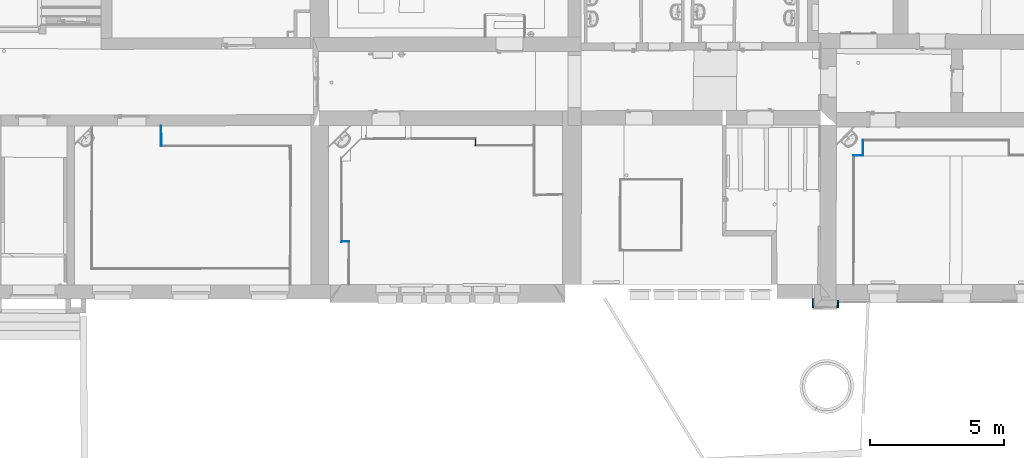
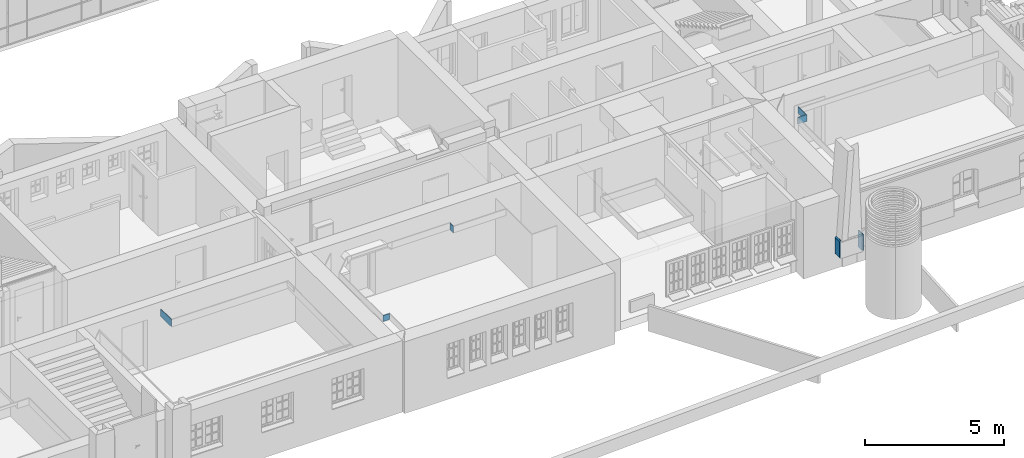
# One storey, part 60 of 196: 7 walls.
"""IFC2X3 building model written with IfcOpenShell, lengths in metres."""

from ifc_helpers import new_model, entity, si_unit, converted_unit, derived_unit, money_unit, point, direction, frame, frame_2d, origin_with_axes, place, context, subcontext, project, spatial, polyline, circle_curve, parameter, trimmed, segment, composite_curve, outline, extrude, material, layer, layer_set, layer_usage, type_object, element, save


model = new_model("IFC2X3")

# Units and contexts
model_context = context("Model", 3, precision=1e-05, world=origin_with_axes(), true_north=direction((0.0, 1.0)))
body_context = subcontext(model_context, "Body", "Model", "MODEL_VIEW")
ifc_project = project(units=[si_unit("LENGTHUNIT", "METRE"), si_unit("AREAUNIT", "SQUARE_METRE"), si_unit("VOLUMEUNIT", "CUBIC_METRE"), converted_unit("PLANEANGLEUNIT", "DEGREE", entity("IfcPlaneAngleMeasure", 0.0174532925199), si_unit("PLANEANGLEUNIT", "RADIAN"), dimensions=[0, 0, 0, 0, 0, 0, 0]), money_unit("EUR"), converted_unit("TIMEUNIT", "Year", entity("IfcTimeMeasure", 31556926.0), si_unit("TIMEUNIT", "SECOND"), dimensions=[0, 0, 1, 0, 0, 0, 0]), si_unit("MASSUNIT", "GRAM", prefix="KILO"), si_unit("THERMODYNAMICTEMPERATUREUNIT", "DEGREE_CELSIUS"), si_unit("LUMINOUSINTENSITYUNIT", "LUMEN"), si_unit("ENERGYUNIT", "JOULE", prefix="MEGA"), derived_unit("THERMALCONDUCTANCEUNIT", [(si_unit("POWERUNIT", "WATT"), 1), (si_unit("LENGTHUNIT", "METRE"), -1), (si_unit("THERMODYNAMICTEMPERATUREUNIT", "KELVIN"), -1)]), derived_unit("SPECIFICHEATCAPACITYUNIT", [(si_unit("ENERGYUNIT", "JOULE"), 1), (si_unit("MASSUNIT", "GRAM", prefix="KILO"), -1), (si_unit("THERMODYNAMICTEMPERATUREUNIT", "KELVIN"), -1)]), derived_unit("MASSDENSITYUNIT", [(si_unit("MASSUNIT", "GRAM", prefix="KILO"), 1), (si_unit("VOLUMEUNIT", "CUBIC_METRE"), -1)])], contexts=[model_context])

# Site, building, storey
site_placement = place(None, origin_with_axes())
site = spatial("IfcSite", under=ifc_project, at=site_placement, Name="Gelände", CompositionType="ELEMENT")
building_placement = place(site_placement, origin_with_axes())
building = spatial("IfcBuilding", under=site, at=building_placement, Name="Gebäude", CompositionType="ELEMENT")
storey_placement = place(building_placement, frame((0.0, 0.0, -3.0), z_axis=(0.0, 0.0, 1.0), x_axis=(1.0, 0.0, 0.0)))
storey = spatial("IfcBuildingStorey", under=building, at=storey_placement, Name="KELLERGESCHOSS", CompositionType="ELEMENT", Elevation=-3.0)

# Walls
ifc_material_1 = material(Name="43_Gipskarton")
ifc_layer = layer(ifc_material_1, 0.03, ventilated="UNKNOWN")
ifc_layer_set = layer_set([ifc_layer], Name="43_Gipskarton 0.03")
ifc_layer_usage_1 = layer_usage(ifc_layer_set, "AXIS2", "NEGATIVE", 0.0)
wall_type_1 = type_object("IfcWallType", Name="43_Gipskarton 30", PredefinedType="ELEMENTEDWALL")
wall_1_placement = place(storey_placement, frame((-2.63982226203, 15.6265424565, 2.14), z_axis=(0.0, 0.0, 1.0), x_axis=(-0.0184373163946, 0.999830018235, 0.0)))
element("IfcWallStandardCase", 1, at=wall_1_placement, inside=storey, type_object=wall_type_1, material=ifc_layer_usage_1, Name="Wand-064", ObjectType="ELEMENTEDWALL", context=body_context, shape_type="SweptSolid", body=[
    extrude(outline(polyline([(0.0294473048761, -0.03), (0.768220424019, -0.03), (0.768220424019, 0.0), (0.0, 0.0), (0.0294473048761, -0.03)])), origin_with_axes(), (0.0, 0.0, 1.0), 0.32),
])
ifc_layer_usage_2 = layer_usage(ifc_layer_set, "AXIS2", "NEGATIVE", 0.0)
wall_2_placement = place(storey_placement, frame((9.0799747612, 15.6428179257, 2.15545783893), z_axis=(0.0, 0.0, 1.0), x_axis=(0.00303276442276, 0.999995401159, 0.0)))
element("IfcWallStandardCase", 2, at=wall_2_placement, inside=storey, type_object=wall_type_1, material=ifc_layer_usage_2, Name="Wand-066", ObjectType="ELEMENTEDWALL", context=body_context, shape_type="SweptSolid", body=[
    extrude(outline(polyline([(0.0301748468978, -0.03), (0.284438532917, -0.03), (0.254300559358, 0.0), (0.0, 0.0), (0.0301748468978, -0.03)])), origin_with_axes(), (0.0, 0.0, 1.0), 0.284542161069),
])
ifc_layer_usage_3 = layer_usage(ifc_layer_set, "AXIS2", "NEGATIVE", 0.0)
wall_3_placement = place(storey_placement, frame((4.11655630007, 12.0902155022, 2.18), z_axis=(0.0, 0.0, 1.0), x_axis=(0.999993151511, 0.00370093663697, 0.0)))
element("IfcWallStandardCase", 3, at=wall_3_placement, inside=storey, type_object=wall_type_1, material=ifc_layer_usage_3, Name="Wand-070", ObjectType="ELEMENTEDWALL", context=body_context, shape_type="SweptSolid", body=[
    extrude(outline(polyline([(-0.0300592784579, -0.03), (0.240866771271, -0.03), (0.271024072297, 0.0), (0.0, 0.0), (-0.0300592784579, -0.03)])), origin_with_axes(), (0.0, 0.0, 1.0), 0.26),
])
ifc_layer_usage_4 = layer_usage(ifc_layer_set, "AXIS2", "NEGATIVE", 0.0)
wall_4_placement = place(storey_placement, frame((23.5657238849, 15.2753556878, 2.22), z_axis=(0.0, 0.0, 1.0), x_axis=(-0.999999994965, -0.000100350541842, 0.0)))
element("IfcWallStandardCase", 4, at=wall_4_placement, inside=storey, type_object=wall_type_1, material=ifc_layer_usage_4, Name="Wand-072", ObjectType="ELEMENTEDWALL", context=body_context, shape_type="SweptSolid", body=[
    extrude(outline(polyline([(0.0301801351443, -0.03), (0.371909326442, -0.03), (0.341985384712, 0.0), (0.0, 0.0), (0.0301801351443, -0.03)])), origin_with_axes(), (0.0, 0.0, 1.0), 0.29),
])
ifc_layer_usage_5 = layer_usage(ifc_layer_set, "AXIS2", "NEGATIVE", 0.0)
wall_5_placement = place(storey_placement, frame((23.5622473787, 15.8464975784, 2.22), z_axis=(0.0, 0.0, 1.0), x_axis=(0.00608682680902, -0.999981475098, 0.0)))
element("IfcWallStandardCase", 5, at=wall_5_placement, inside=storey, type_object=wall_type_1, material=ifc_layer_usage_5, Name="Wand-074", ObjectType="ELEMENTEDWALL", context=body_context, shape_type="SweptSolid", body=[
    extrude(outline(polyline([(-0.0301890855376, -0.03), (0.540972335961, -0.03), (0.571152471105, 0.0), (0.0, 0.0), (-0.0301890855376, -0.03)])), origin_with_axes(), (0.0, 0.0, 1.0), 0.29),
])
ifc_material_2 = material(Name="01_ALLGEMEIN - BAUTEIL")
wall_type_2 = type_object("IfcWallType", Name="Sockel 1 59 x 750", PredefinedType="ELEMENTEDWALL")
wall_6_placement = place(storey_placement, frame((22.5819716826, 9.88909161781, 1.05914340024), z_axis=(0.0, 0.0, 1.0), x_axis=(-0.0118197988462, -0.999930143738, 0.0)))
element("IfcWall", 6, at=wall_6_placement, inside=storey, type_object=wall_type_2, material=ifc_material_2, Name="Wand-079", ObjectType="ELEMENTEDWALL", context=body_context, shape_type="SweptSolid", body=[
    extrude(outline(composite_curve([segment(polyline([(0.0582254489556, -0.75), (0.0575648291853, -0.072488)]), True, "CONTINUOUS"), segment(trimmed(circle_curve(frame_2d((0.00752199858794, -0.0589368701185), x_axis=(0.965236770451, -0.261377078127)), 0.0518451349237), [point((0.0575648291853, -0.072488)), parameter(0.0)], [point((0.0162927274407, -0.007839)), parameter(95.4121261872)], True, "CARTESIAN"), True, "CONTINUOUS"), segment(polyline([(0.0162927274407, -0.007839), (0.00232171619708, 0.0), (0.0, 0.0), (0.0, -0.75), (0.0582254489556, -0.75)]), True, "CONTINUOUS")], self_intersect=False)), frame((0.0, 0.0, 0.0), z_axis=(1.0, 0.0, 0.0), x_axis=(0.0, 1.0, 0.0)), (0.0, 0.0, 1.0), 0.283135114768),
])
wall_7_placement = place(storey_placement, frame((21.7153311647, 9.61648051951, 1.05914340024), z_axis=(0.0, 0.0, 1.0), x_axis=(-0.0145871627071, 0.999893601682, 0.0)))
element("IfcWall", 7, at=wall_7_placement, inside=storey, type_object=wall_type_2, material=ifc_material_2, Name="Wand-081", ObjectType="ELEMENTEDWALL", context=body_context, shape_type="SweptSolid", body=[
    extrude(outline(composite_curve([segment(polyline([(0.0582254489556, -0.75), (0.0575648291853, -0.072488)]), True, "CONTINUOUS"), segment(trimmed(circle_curve(frame_2d((0.00752199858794, -0.0589368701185), x_axis=(0.965236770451, -0.261377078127)), 0.0518451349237), [point((0.0575648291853, -0.072488)), parameter(0.0)], [point((0.0162927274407, -0.007839)), parameter(95.4121261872)], True, "CARTESIAN"), True, "CONTINUOUS"), segment(polyline([(0.0162927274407, -0.007839), (0.00232171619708, 0.0), (0.0, 0.0), (0.0, -0.75), (0.0582254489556, -0.75)]), True, "CONTINUOUS")], self_intersect=False)), frame((0.0, 0.0, 0.0), z_axis=(1.0, 0.0, 0.0), x_axis=(0.0, 1.0, 0.0)), (0.0, 0.0, 1.0), 0.327813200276),
])

save(model, "model.ifc")
